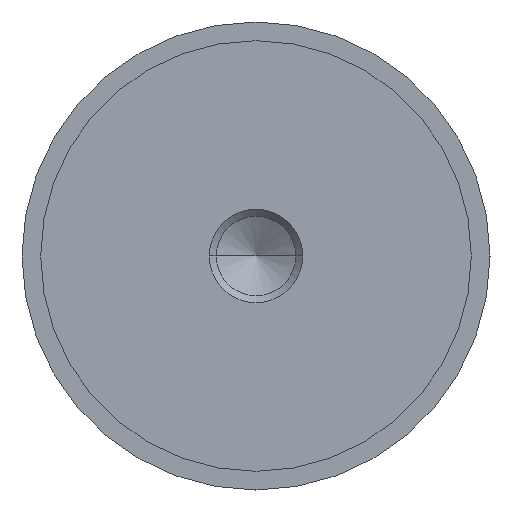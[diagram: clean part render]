
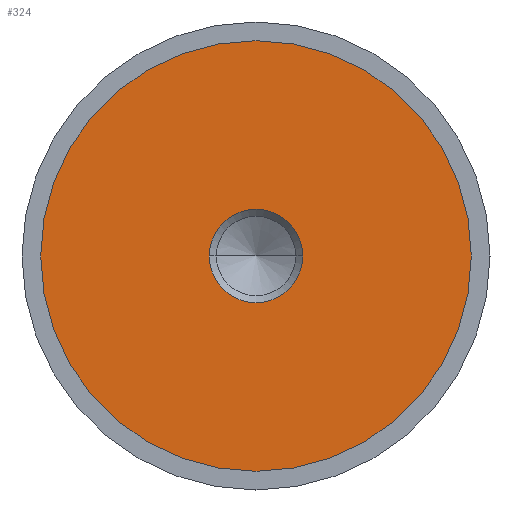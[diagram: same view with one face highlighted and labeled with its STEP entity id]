
A CAD part, left-side view. The second image highlights one B-rep face of the part: STEP entity #324.
In plain terms, the highlighted planar face has unit normal (-1, 0, 0).
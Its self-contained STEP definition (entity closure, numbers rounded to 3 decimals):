
#27 = DIRECTION ( 'NONE',  ( 1., 0., 0. ) ) ;
#67 = ORIENTED_EDGE ( 'NONE', *, *, #360, .T. ) ;
#74 = CIRCLE ( 'NONE', #543, 4.99 ) ;
#77 = DIRECTION ( 'NONE',  ( 0., 0., 1. ) ) ;
#92 = ORIENTED_EDGE ( 'NONE', *, *, #93, .T. ) ;
#93 = EDGE_CURVE ( 'NONE', #219, #627, #666, .T. ) ;
#97 = PLANE ( 'NONE',  #158 ) ;
#101 = ORIENTED_EDGE ( 'NONE', *, *, #418, .T. ) ;
#124 = CARTESIAN_POINT ( 'NONE',  ( -14.99, 0., 0. ) ) ;
#158 = AXIS2_PLACEMENT_3D ( 'NONE', #425, #366, #258 ) ;
#172 = VERTEX_POINT ( 'NONE', #338 ) ;
#177 = VERTEX_POINT ( 'NONE', #830 ) ;
#204 = EDGE_LOOP ( 'NONE', ( #67, #101 ) ) ;
#213 = CARTESIAN_POINT ( 'NONE',  ( -14.99, 0., 0. ) ) ;
#219 = VERTEX_POINT ( 'NONE', #825 ) ;
#258 = DIRECTION ( 'NONE',  ( 0., 0., -1. ) ) ;
#283 = CIRCLE ( 'NONE', #852, 23. ) ;
#306 = DIRECTION ( 'NONE',  ( 0., 0., -1. ) ) ;
#320 = DIRECTION ( 'NONE',  ( 0., 0., -1. ) ) ;
#324 = ADVANCED_FACE ( 'NONE', ( #438, #432 ), #97, .F. ) ;
#331 = DIRECTION ( 'NONE',  ( 0., 0., 1. ) ) ;
#338 = CARTESIAN_POINT ( 'NONE',  ( -14.99, 0., -23. ) ) ;
#360 = EDGE_CURVE ( 'NONE', #177, #172, #464, .T. ) ;
#366 = DIRECTION ( 'NONE',  ( 1., 0., 0. ) ) ;
#415 = DIRECTION ( 'NONE',  ( -1., 0., 0. ) ) ;
#418 = EDGE_CURVE ( 'NONE', #172, #177, #283, .T. ) ;
#425 = CARTESIAN_POINT ( 'NONE',  ( -14.99, 23., 0. ) ) ;
#432 = FACE_OUTER_BOUND ( 'NONE', #204, .T. ) ;
#438 = FACE_BOUND ( 'NONE', #886, .T. ) ;
#464 = CIRCLE ( 'NONE', #479, 23. ) ;
#479 = AXIS2_PLACEMENT_3D ( 'NONE', #213, #415, #77 ) ;
#516 = DIRECTION ( 'NONE',  ( 1., 0., 0. ) ) ;
#540 = DIRECTION ( 'NONE',  ( -1., 0., 0. ) ) ;
#543 = AXIS2_PLACEMENT_3D ( 'NONE', #646, #27, #306 ) ;
#622 = AXIS2_PLACEMENT_3D ( 'NONE', #866, #516, #320 ) ;
#627 = VERTEX_POINT ( 'NONE', #845 ) ;
#646 = CARTESIAN_POINT ( 'NONE',  ( -14.99, 0., 0. ) ) ;
#666 = CIRCLE ( 'NONE', #622, 4.99 ) ;
#693 = EDGE_CURVE ( 'NONE', #627, #219, #74, .T. ) ;
#754 = ORIENTED_EDGE ( 'NONE', *, *, #693, .T. ) ;
#825 = CARTESIAN_POINT ( 'NONE',  ( -14.99, 4.99, 0. ) ) ;
#830 = CARTESIAN_POINT ( 'NONE',  ( -14.99, 0., 23. ) ) ;
#845 = CARTESIAN_POINT ( 'NONE',  ( -14.99, -4.99, 0. ) ) ;
#852 = AXIS2_PLACEMENT_3D ( 'NONE', #124, #540, #331 ) ;
#866 = CARTESIAN_POINT ( 'NONE',  ( -14.99, 0., 0. ) ) ;
#886 = EDGE_LOOP ( 'NONE', ( #754, #92 ) ) ;
